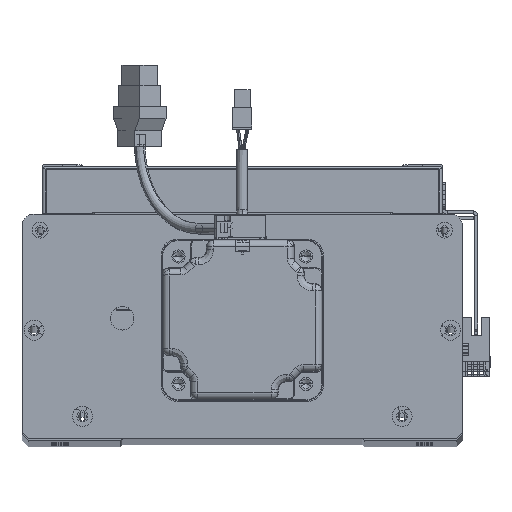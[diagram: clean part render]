
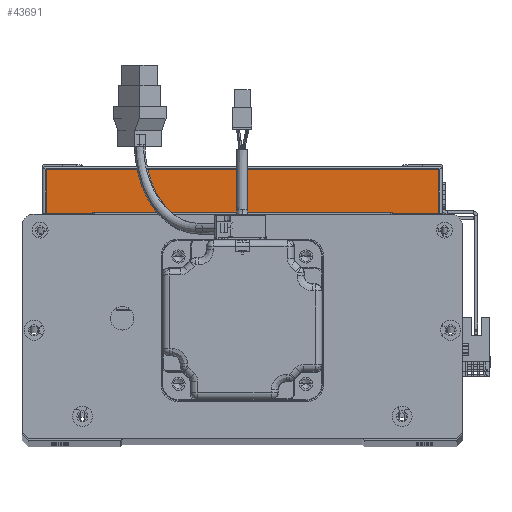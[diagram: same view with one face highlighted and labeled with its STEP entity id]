
A CAD part, top view. The second image highlights one B-rep face of the part: STEP entity #43691.
In plain terms, the highlighted planar face has unit normal (0, 0, 1) as drawn and (1, 0, 0) by its records, which use the part's own axes.
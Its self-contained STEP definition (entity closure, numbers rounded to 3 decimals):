
#1304 = DIRECTION ( 'NONE',  ( 0., 0., -1. ) ) ;
#1836 = EDGE_CURVE ( 'NONE', #11311, #32298, #5648, .T. ) ;
#4111 = FACE_OUTER_BOUND ( 'NONE', #39172, .T. ) ;
#5648 = LINE ( 'NONE', #22648, #34720 ) ;
#8999 = VERTEX_POINT ( 'NONE', #18970 ) ;
#11311 = VERTEX_POINT ( 'NONE', #67338 ) ;
#11753 = CARTESIAN_POINT ( 'NONE',  ( 150., 22.5, 98. ) ) ;
#12545 = LINE ( 'NONE', #45558, #14169 ) ;
#13493 = ORIENTED_EDGE ( 'NONE', *, *, #49860, .T. ) ;
#14169 = VECTOR ( 'NONE', #1304, 1000. ) ;
#14816 = CARTESIAN_POINT ( 'NONE',  ( 150., 0., 98. ) ) ;
#15510 = VECTOR ( 'NONE', #69839, 1000. ) ;
#16216 = VERTEX_POINT ( 'NONE', #55684 ) ;
#18970 = CARTESIAN_POINT ( 'NONE',  ( 150., 0., -98. ) ) ;
#22648 = CARTESIAN_POINT ( 'NONE',  ( 150., 23.5, 98. ) ) ;
#24918 = LINE ( 'NONE', #59111, #15510 ) ;
#26339 = LINE ( 'NONE', #11753, #62110 ) ;
#26969 = EDGE_CURVE ( 'NONE', #32298, #8999, #12545, .T. ) ;
#27541 = DIRECTION ( 'NONE',  ( 0., 0., 1. ) ) ;
#27791 = AXIS2_PLACEMENT_3D ( 'NONE', #38036, #54486, #32788 ) ;
#32298 = VERTEX_POINT ( 'NONE', #14816 ) ;
#32788 = DIRECTION ( 'NONE',  ( 0., 0., 1. ) ) ;
#34720 = VECTOR ( 'NONE', #39564, 1000. ) ;
#38036 = CARTESIAN_POINT ( 'NONE',  ( 150., 23.5, -100. ) ) ;
#39172 = EDGE_LOOP ( 'NONE', ( #13493, #60999, #51363, #45280 ) ) ;
#39564 = DIRECTION ( 'NONE',  ( 0., -1., 0. ) ) ;
#43691 = ADVANCED_FACE ( 'NONE', ( #4111 ), #54953, .F. ) ;
#45280 = ORIENTED_EDGE ( 'NONE', *, *, #26969, .T. ) ;
#45558 = CARTESIAN_POINT ( 'NONE',  ( 150., 0., -100. ) ) ;
#49860 = EDGE_CURVE ( 'NONE', #8999, #16216, #24918, .T. ) ;
#51363 = ORIENTED_EDGE ( 'NONE', *, *, #1836, .T. ) ;
#54486 = DIRECTION ( 'NONE',  ( -1., 0., 0. ) ) ;
#54953 = PLANE ( 'NONE',  #27791 ) ;
#55684 = CARTESIAN_POINT ( 'NONE',  ( 150., 22.5, -98. ) ) ;
#59111 = CARTESIAN_POINT ( 'NONE',  ( 150., 23.5, -98. ) ) ;
#60999 = ORIENTED_EDGE ( 'NONE', *, *, #64819, .T. ) ;
#62110 = VECTOR ( 'NONE', #27541, 1000. ) ;
#64819 = EDGE_CURVE ( 'NONE', #16216, #11311, #26339, .T. ) ;
#67338 = CARTESIAN_POINT ( 'NONE',  ( 150., 22.5, 98. ) ) ;
#69839 = DIRECTION ( 'NONE',  ( 0., 1., 0. ) ) ;
